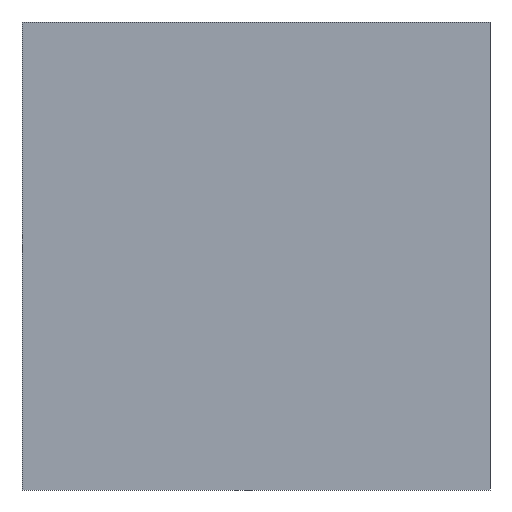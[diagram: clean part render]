
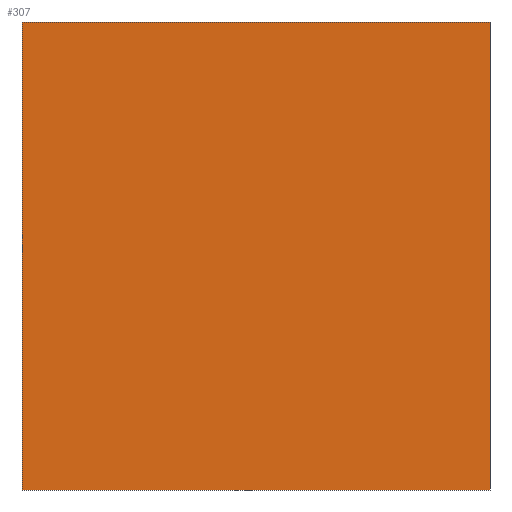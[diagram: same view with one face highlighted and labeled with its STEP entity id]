
A CAD part, left-side view. The second image highlights one B-rep face of the part: STEP entity #307.
In plain terms, the highlighted planar face has unit normal (-1, 0, 0).
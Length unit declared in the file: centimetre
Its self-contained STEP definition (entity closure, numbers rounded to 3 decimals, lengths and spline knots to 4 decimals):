
#31 = EDGE_LOOP ( 'NONE', ( #160, #96, #191, #236 ) ) ;
#35 = DIRECTION ( 'NONE',  ( 0., 0., -1. ) ) ;
#37 = VERTEX_POINT ( 'NONE', #194 ) ;
#51 = VECTOR ( 'NONE', #336, 100. ) ;
#58 = FACE_OUTER_BOUND ( 'NONE', #31, .T. ) ;
#81 = DIRECTION ( 'NONE',  ( 0., -1., 0. ) ) ;
#96 = ORIENTED_EDGE ( 'NONE', *, *, #233, .F. ) ;
#126 = DIRECTION ( 'NONE',  ( 0., 0., -1. ) ) ;
#129 = LINE ( 'NONE', #337, #328 ) ;
#149 = EDGE_CURVE ( 'NONE', #37, #189, #295, .T. ) ;
#160 = ORIENTED_EDGE ( 'NONE', *, *, #149, .T. ) ;
#167 = VECTOR ( 'NONE', #306, 100. ) ;
#178 = EDGE_CURVE ( 'NONE', #218, #278, #391, .T. ) ;
#184 = CARTESIAN_POINT ( 'NONE',  ( 0., 1000., 1000. ) ) ;
#189 = VERTEX_POINT ( 'NONE', #309 ) ;
#191 = ORIENTED_EDGE ( 'NONE', *, *, #178, .F. ) ;
#193 = PLANE ( 'NONE',  #204 ) ;
#194 = CARTESIAN_POINT ( 'NONE',  ( 0., 1000., 0. ) ) ;
#204 = AXIS2_PLACEMENT_3D ( 'NONE', #184, #396, #35 ) ;
#211 = CARTESIAN_POINT ( 'NONE',  ( 0., 0., 1000. ) ) ;
#218 = VERTEX_POINT ( 'NONE', #400 ) ;
#233 = EDGE_CURVE ( 'NONE', #278, #189, #339, .T. ) ;
#236 = ORIENTED_EDGE ( 'NONE', *, *, #355, .T. ) ;
#271 = CARTESIAN_POINT ( 'NONE',  ( 0., 1000., 1000. ) ) ;
#278 = VERTEX_POINT ( 'NONE', #393 ) ;
#295 = LINE ( 'NONE', #353, #371 ) ;
#306 = DIRECTION ( 'NONE',  ( 0., -1., 0. ) ) ;
#307 = ADVANCED_FACE ( 'NONE', ( #58 ), #193, .F. ) ;
#309 = CARTESIAN_POINT ( 'NONE',  ( 0., 0., 0. ) ) ;
#328 = VECTOR ( 'NONE', #126, 100. ) ;
#336 = DIRECTION ( 'NONE',  ( 0., 0., -1. ) ) ;
#337 = CARTESIAN_POINT ( 'NONE',  ( 0., 1000., 1000. ) ) ;
#339 = LINE ( 'NONE', #211, #51 ) ;
#353 = CARTESIAN_POINT ( 'NONE',  ( 0., 1000., 0. ) ) ;
#355 = EDGE_CURVE ( 'NONE', #218, #37, #129, .T. ) ;
#371 = VECTOR ( 'NONE', #81, 100. ) ;
#391 = LINE ( 'NONE', #271, #167 ) ;
#393 = CARTESIAN_POINT ( 'NONE',  ( 0., 0., 1000. ) ) ;
#396 = DIRECTION ( 'NONE',  ( 1., 0., 0. ) ) ;
#400 = CARTESIAN_POINT ( 'NONE',  ( 0., 1000., 1000. ) ) ;
